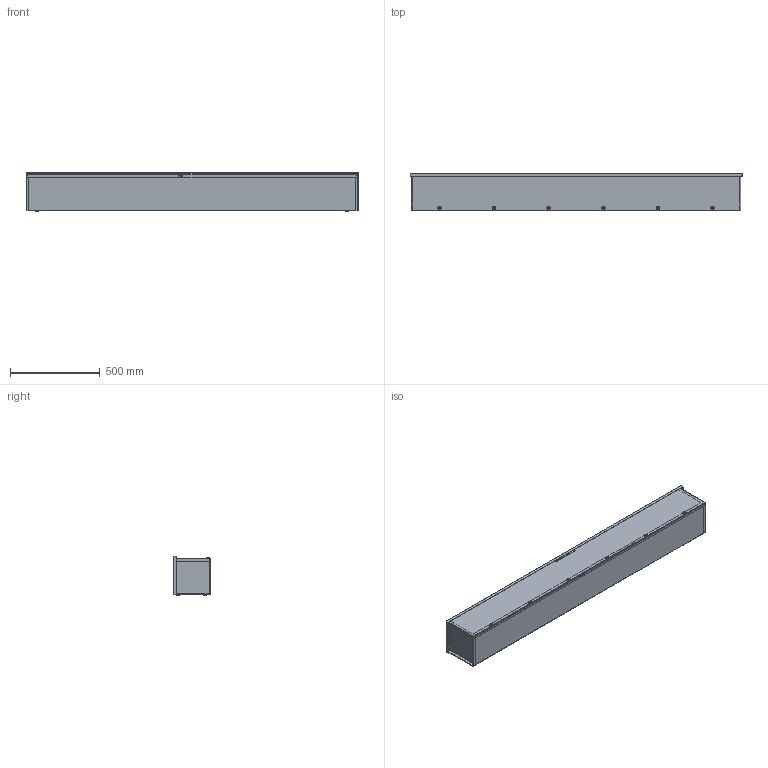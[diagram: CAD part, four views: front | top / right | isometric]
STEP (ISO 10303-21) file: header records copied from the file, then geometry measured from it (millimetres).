
FILE_DESCRIPTION (( 'STEP AP203' ), '1' );
FILE_NAME ('a8872rt.STEP', '2010-03-11T16:51:43', ( 'Hoffman User' ), ( 'Hoffman Enclosures' ), 'SwSTEP 2.0', 'SolidWorks 2009', '' );
FILE_SCHEMA (( 'CONFIG_CONTROL_DESIGN' ));
Length unit declared in the file: inch
Products named in the file (6): a8872rt; Cover_3RT_8x72; WmtBody_3RT_Long_8x8x72; Body_Long_8x8x72; End_8x8; Support_43121001
Assembly tree (6 placements, depth 3):
  a8872rt
    Cover_3RT_8x72
    WmtBody_3RT_Long_8x8x72
      Support_43121001
      Body_Long_8x8x72
      End_8x8  x2
Bounding box: 1851.15 x 208.51 x 218.44 mm (x, y, z)
Volume: 3129186.6 mm3; surface area: 3449243.4 mm2
Topology: 11 solids, 11 shells, 366 faces, 794 edges, 454 vertices
Faces by surface type: plane 156, cylinder 104, cone 42, torus 40, bspline 24
Entity records: 10560 total; most frequent: CARTESIAN_POINT 2550, DIRECTION 1628, ORIENTED_EDGE 1436, EDGE_CURVE 718, AXIS2_PLACEMENT_3D 628, VERTEX_POINT 414, EDGE_LOOP 384, VECTOR 372
